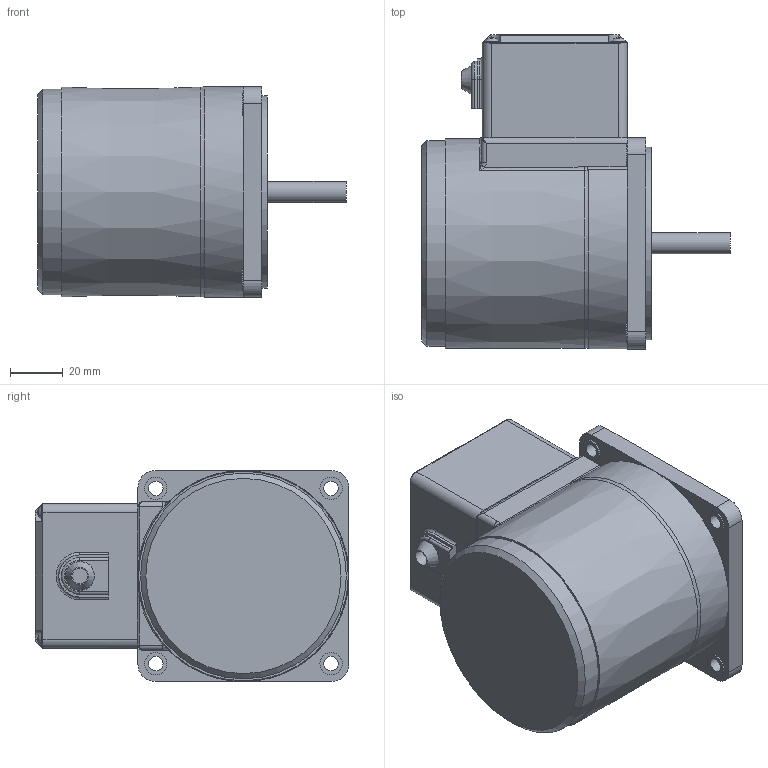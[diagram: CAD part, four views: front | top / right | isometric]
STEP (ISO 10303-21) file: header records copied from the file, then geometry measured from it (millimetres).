
FILE_DESCRIPTION((''),'2;1');
FILE_NAME('D:\STP파일\25W MOTOR\T1 BOX TYPE\S8I15S-T1.stp','2013-05-20T16:43:30',('leebh'),(''),'Autodesk Inventor 2011','Autodesk Inventor 2011','');
FILE_SCHEMA(('AUTOMOTIVE_DESIGN { 1 0 10303 214 1 1 1 1 }'));
Length unit declared in the file: millimetre
Products named in the file (1): 부품3
Bounding box: 117 x 119 x 80 mm (x, y, z)
Volume: 557167.3 mm3; surface area: 46874.8 mm2
Topology: 1 solids, 2 shells, 216 faces, 544 edges, 345 vertices
Faces by surface type: plane 124, cylinder 58, bspline 19, torus 12, cone 3
Full cylindrical faces by diameter (mm): 5.5 x4, 5.6 x4, 8 x2, 8.5 x4, 34 x1, 73 x1, 78 x1
Entity records: 6978 total; most frequent: CARTESIAN_POINT 1945, ORIENTED_EDGE 1004, DIRECTION 980, EDGE_CURVE 502, AXIS2_PLACEMENT_3D 353, VERTEX_POINT 339, VECTOR 274, LINE 274
